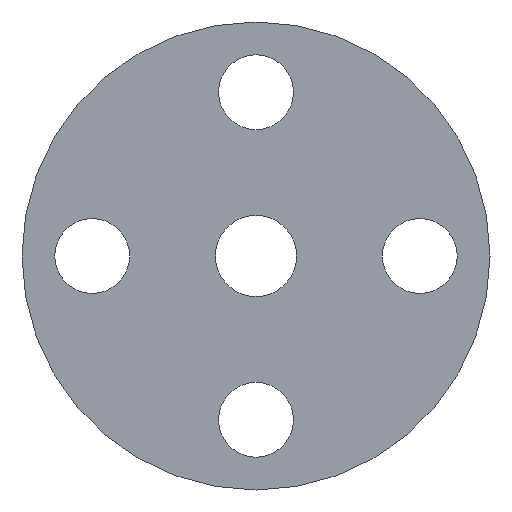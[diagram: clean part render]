
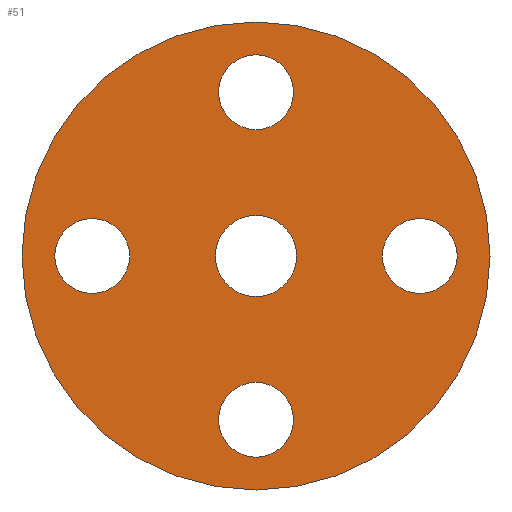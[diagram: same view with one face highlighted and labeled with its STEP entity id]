
A CAD part, front view. The second image highlights one B-rep face of the part: STEP entity #51.
In plain terms, the highlighted planar face has unit normal (0, -1, 0).
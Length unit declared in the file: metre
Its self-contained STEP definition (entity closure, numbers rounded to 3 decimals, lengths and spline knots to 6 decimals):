
#5 = CARTESIAN_POINT ( 'NONE',  ( 0.011112, 0., -0.00254 ) ) ;
#13 = CARTESIAN_POINT ( 'NONE',  ( 0.011112, 0., 0.00254 ) ) ;
#19 = FACE_BOUND ( 'NONE', #109, .T. ) ;
#33 = CARTESIAN_POINT ( 'NONE',  ( 0., 0., 0.011112 ) ) ;
#39 = ORIENTED_EDGE ( 'NONE', *, *, #180, .F. ) ;
#42 = CIRCLE ( 'NONE', #537, 0.00275 ) ;
#48 = DIRECTION ( 'NONE',  ( 0., 0., -1. ) ) ;
#51 = ADVANCED_FACE ( 'NONE', ( #551, #106, #362, #19, #412, #455 ), #313, .F. ) ;
#59 = EDGE_CURVE ( 'NONE', #82, #184, #445, .T. ) ;
#64 = CIRCLE ( 'NONE', #570, 0.015875 ) ;
#65 = CARTESIAN_POINT ( 'NONE',  ( 0., 0., 0. ) ) ;
#68 = DIRECTION ( 'NONE',  ( 0., -1., 0. ) ) ;
#70 = CIRCLE ( 'NONE', #495, 0.00254 ) ;
#75 = VERTEX_POINT ( 'NONE', #101 ) ;
#77 = ORIENTED_EDGE ( 'NONE', *, *, #454, .F. ) ;
#81 = EDGE_CURVE ( 'NONE', #507, #443, #405, .T. ) ;
#82 = VERTEX_POINT ( 'NONE', #147 ) ;
#94 = DIRECTION ( 'NONE',  ( 0., -1., 0. ) ) ;
#95 = ORIENTED_EDGE ( 'NONE', *, *, #361, .F. ) ;
#97 = AXIS2_PLACEMENT_3D ( 'NONE', #33, #334, #331 ) ;
#99 = ORIENTED_EDGE ( 'NONE', *, *, #568, .F. ) ;
#101 = CARTESIAN_POINT ( 'NONE',  ( -0.011112, 0., 0.00254 ) ) ;
#103 = EDGE_CURVE ( 'NONE', #184, #82, #64, .T. ) ;
#106 = FACE_BOUND ( 'NONE', #401, .T. ) ;
#108 = CARTESIAN_POINT ( 'NONE',  ( 0., 0., 0. ) ) ;
#109 = EDGE_LOOP ( 'NONE', ( #95, #99 ) ) ;
#117 = CARTESIAN_POINT ( 'NONE',  ( 0., 0., 0.011112 ) ) ;
#141 = DIRECTION ( 'NONE',  ( 0., 0., -1. ) ) ;
#142 = ORIENTED_EDGE ( 'NONE', *, *, #81, .T. ) ;
#143 = DIRECTION ( 'NONE',  ( 0., 0., -1. ) ) ;
#145 = CARTESIAN_POINT ( 'NONE',  ( 0., 0., 0. ) ) ;
#147 = CARTESIAN_POINT ( 'NONE',  ( 0., 0., -0.015875 ) ) ;
#152 = EDGE_LOOP ( 'NONE', ( #281, #242 ) ) ;
#155 = ORIENTED_EDGE ( 'NONE', *, *, #172, .F. ) ;
#157 = AXIS2_PLACEMENT_3D ( 'NONE', #108, #278, #282 ) ;
#159 = AXIS2_PLACEMENT_3D ( 'NONE', #297, #336, #48 ) ;
#172 = EDGE_CURVE ( 'NONE', #379, #496, #473, .T. ) ;
#176 = CARTESIAN_POINT ( 'NONE',  ( 0., 0., -0.008572 ) ) ;
#180 = EDGE_CURVE ( 'NONE', #75, #321, #187, .T. ) ;
#183 = CARTESIAN_POINT ( 'NONE',  ( 0., 0., 0.00275 ) ) ;
#184 = VERTEX_POINT ( 'NONE', #511 ) ;
#186 = DIRECTION ( 'NONE',  ( 0., 0., -1. ) ) ;
#187 = CIRCLE ( 'NONE', #194, 0.00254 ) ;
#192 = DIRECTION ( 'NONE',  ( 0., 0., -1. ) ) ;
#194 = AXIS2_PLACEMENT_3D ( 'NONE', #459, #68, #356 ) ;
#199 = DIRECTION ( 'NONE',  ( 0., 0., -1. ) ) ;
#200 = ORIENTED_EDGE ( 'NONE', *, *, #353, .F. ) ;
#205 = EDGE_CURVE ( 'NONE', #443, #507, #42, .T. ) ;
#210 = VERTEX_POINT ( 'NONE', #520 ) ;
#232 = DIRECTION ( 'NONE',  ( 0., 1., 0. ) ) ;
#242 = ORIENTED_EDGE ( 'NONE', *, *, #103, .T. ) ;
#256 = EDGE_CURVE ( 'NONE', #515, #210, #525, .T. ) ;
#261 = DIRECTION ( 'NONE',  ( 0., -1., 0. ) ) ;
#270 = AXIS2_PLACEMENT_3D ( 'NONE', #384, #261, #436 ) ;
#273 = EDGE_CURVE ( 'NONE', #210, #515, #337, .T. ) ;
#278 = DIRECTION ( 'NONE',  ( 0., 1., 0. ) ) ;
#280 = DIRECTION ( 'NONE',  ( 0., -1., 0. ) ) ;
#281 = ORIENTED_EDGE ( 'NONE', *, *, #59, .T. ) ;
#282 = DIRECTION ( 'NONE',  ( 0., 0., 1. ) ) ;
#285 = CIRCLE ( 'NONE', #270, 0.00254 ) ;
#293 = DIRECTION ( 'NONE',  ( 0., 0., 1. ) ) ;
#297 = CARTESIAN_POINT ( 'NONE',  ( 0.011112, 0., 0. ) ) ;
#302 = CARTESIAN_POINT ( 'NONE',  ( 0., 0., -0.00275 ) ) ;
#307 = CARTESIAN_POINT ( 'NONE',  ( -0.011112, 0., 0. ) ) ;
#313 = PLANE ( 'NONE',  #472 ) ;
#314 = DIRECTION ( 'NONE',  ( 0., 1., 0. ) ) ;
#317 = EDGE_LOOP ( 'NONE', ( #155, #77 ) ) ;
#321 = VERTEX_POINT ( 'NONE', #366 ) ;
#327 = CIRCLE ( 'NONE', #159, 0.00254 ) ;
#331 = DIRECTION ( 'NONE',  ( 0., 0., -1. ) ) ;
#332 = EDGE_LOOP ( 'NONE', ( #467, #492 ) ) ;
#334 = DIRECTION ( 'NONE',  ( 0., -1., 0. ) ) ;
#336 = DIRECTION ( 'NONE',  ( 0., -1., 0. ) ) ;
#337 = CIRCLE ( 'NONE', #97, 0.00254 ) ;
#338 = DIRECTION ( 'NONE',  ( 0., -1., 0. ) ) ;
#341 = CARTESIAN_POINT ( 'NONE',  ( 0., 0., -0.013652 ) ) ;
#346 = CARTESIAN_POINT ( 'NONE',  ( 0., 0., 0.013652 ) ) ;
#353 = EDGE_CURVE ( 'NONE', #321, #75, #70, .T. ) ;
#354 = EDGE_LOOP ( 'NONE', ( #142, #526 ) ) ;
#356 = DIRECTION ( 'NONE',  ( 0., 0., -1. ) ) ;
#360 = DIRECTION ( 'NONE',  ( 0., 0., 1. ) ) ;
#361 = EDGE_CURVE ( 'NONE', #425, #465, #559, .T. ) ;
#362 = FACE_BOUND ( 'NONE', #317, .T. ) ;
#364 = CARTESIAN_POINT ( 'NONE',  ( 0., 0., 0. ) ) ;
#366 = CARTESIAN_POINT ( 'NONE',  ( -0.011112, 0., -0.00254 ) ) ;
#379 = VERTEX_POINT ( 'NONE', #341 ) ;
#384 = CARTESIAN_POINT ( 'NONE',  ( 0., 0., -0.011112 ) ) ;
#400 = DIRECTION ( 'NONE',  ( 0., 0., -1. ) ) ;
#401 = EDGE_LOOP ( 'NONE', ( #200, #39 ) ) ;
#403 = CARTESIAN_POINT ( 'NONE',  ( 0., 0., 0. ) ) ;
#405 = CIRCLE ( 'NONE', #157, 0.00275 ) ;
#407 = DIRECTION ( 'NONE',  ( 0., -1., 0. ) ) ;
#412 = FACE_BOUND ( 'NONE', #332, .T. ) ;
#414 = AXIS2_PLACEMENT_3D ( 'NONE', #508, #280, #186 ) ;
#425 = VERTEX_POINT ( 'NONE', #5 ) ;
#436 = DIRECTION ( 'NONE',  ( 0., 0., -1. ) ) ;
#443 = VERTEX_POINT ( 'NONE', #183 ) ;
#445 = CIRCLE ( 'NONE', #556, 0.015875 ) ;
#447 = CARTESIAN_POINT ( 'NONE',  ( 0.011112, 0., 0. ) ) ;
#451 = DIRECTION ( 'NONE',  ( 0., -1., 0. ) ) ;
#454 = EDGE_CURVE ( 'NONE', #496, #379, #285, .T. ) ;
#455 = FACE_OUTER_BOUND ( 'NONE', #152, .T. ) ;
#459 = CARTESIAN_POINT ( 'NONE',  ( -0.011112, 0., 0. ) ) ;
#465 = VERTEX_POINT ( 'NONE', #13 ) ;
#467 = ORIENTED_EDGE ( 'NONE', *, *, #273, .F. ) ;
#472 = AXIS2_PLACEMENT_3D ( 'NONE', #364, #232, #360 ) ;
#473 = CIRCLE ( 'NONE', #414, 0.00254 ) ;
#491 = DIRECTION ( 'NONE',  ( 0., -1., 0. ) ) ;
#492 = ORIENTED_EDGE ( 'NONE', *, *, #256, .F. ) ;
#495 = AXIS2_PLACEMENT_3D ( 'NONE', #307, #491, #141 ) ;
#496 = VERTEX_POINT ( 'NONE', #176 ) ;
#503 = AXIS2_PLACEMENT_3D ( 'NONE', #117, #338, #199 ) ;
#507 = VERTEX_POINT ( 'NONE', #302 ) ;
#508 = CARTESIAN_POINT ( 'NONE',  ( 0., 0., -0.011112 ) ) ;
#511 = CARTESIAN_POINT ( 'NONE',  ( 0., 0., 0.015875 ) ) ;
#515 = VERTEX_POINT ( 'NONE', #346 ) ;
#520 = CARTESIAN_POINT ( 'NONE',  ( 0., 0., 0.008572 ) ) ;
#525 = CIRCLE ( 'NONE', #503, 0.00254 ) ;
#526 = ORIENTED_EDGE ( 'NONE', *, *, #205, .T. ) ;
#537 = AXIS2_PLACEMENT_3D ( 'NONE', #145, #314, #293 ) ;
#551 = FACE_BOUND ( 'NONE', #354, .T. ) ;
#556 = AXIS2_PLACEMENT_3D ( 'NONE', #403, #451, #143 ) ;
#559 = CIRCLE ( 'NONE', #573, 0.00254 ) ;
#568 = EDGE_CURVE ( 'NONE', #465, #425, #327, .T. ) ;
#570 = AXIS2_PLACEMENT_3D ( 'NONE', #65, #407, #192 ) ;
#573 = AXIS2_PLACEMENT_3D ( 'NONE', #447, #94, #400 ) ;
